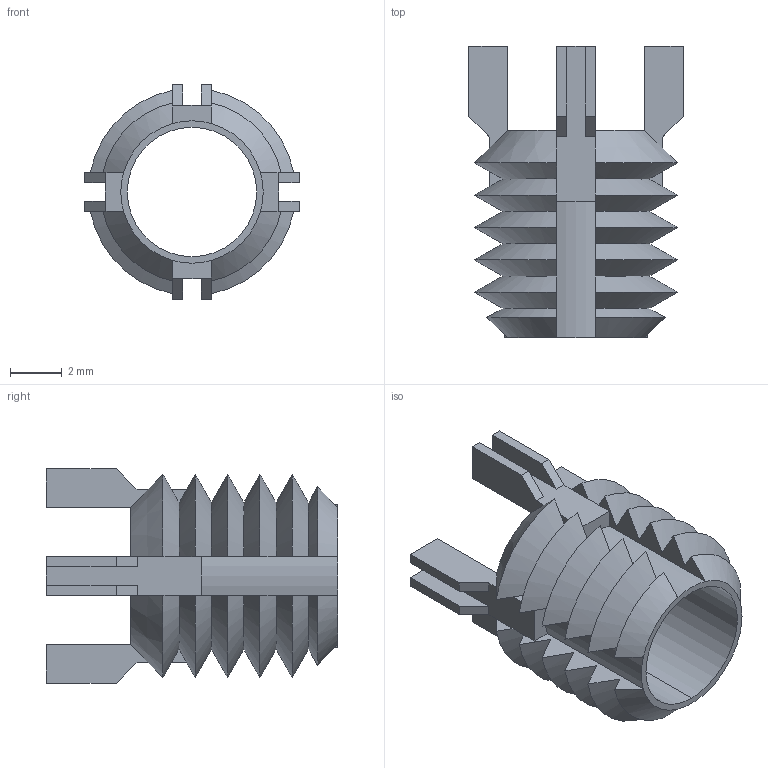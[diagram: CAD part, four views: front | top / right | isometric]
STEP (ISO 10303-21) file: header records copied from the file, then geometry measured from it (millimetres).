
FILE_DESCRIPTION (( 'STEP AP203' ), '1' );
FILE_NAME ('TR1520.65951.step', '2023-03-31T08:47:52', ( '' ), ( '' ), 'SwSTEP 2.0', 'SolidWorks 2019', '' );
FILE_SCHEMA (( 'CONFIG_CONTROL_DESIGN' ));
Length unit declared in the file: millimetre
Products named in the file (1): TR1520.65951
Bounding box: 8.29 x 11.25 x 8.29 mm (x, y, z)
Volume: 137.1 mm3; surface area: 552.5 mm2
Topology: 1 solids, 1 shells, 128 faces, 338 edges, 212 vertices
Faces by surface type: plane 74, cone 48, cylinder 6
Entity records: 4087 total; most frequent: CARTESIAN_POINT 1039, ORIENTED_EDGE 676, DIRECTION 540, EDGE_CURVE 338, VERTEX_POINT 212, AXIS2_PLACEMENT_3D 193, LINE 154, VECTOR 154
